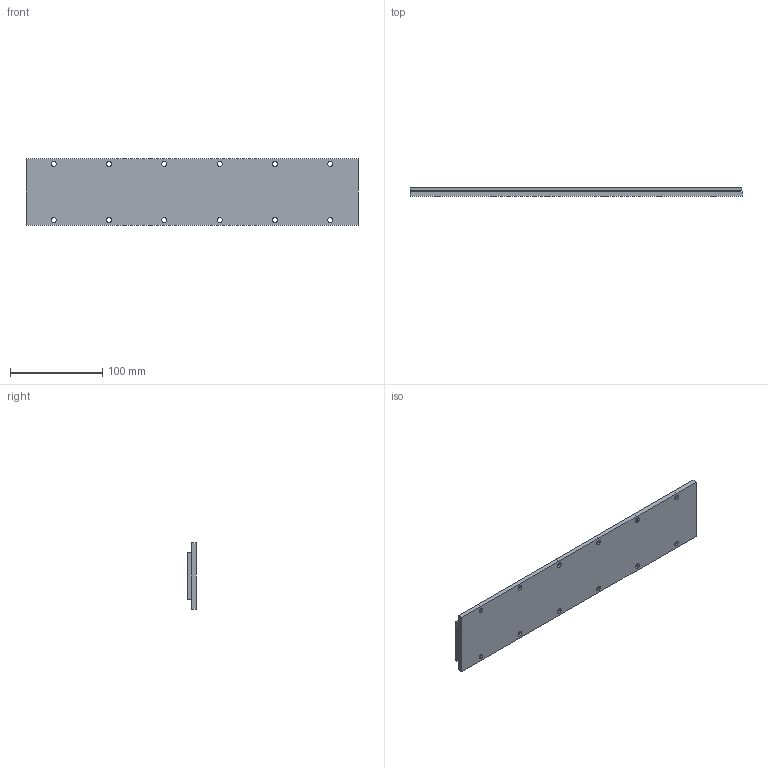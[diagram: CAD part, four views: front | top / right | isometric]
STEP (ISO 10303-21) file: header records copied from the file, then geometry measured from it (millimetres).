
FILE_DESCRIPTION (( 'STEP AP203' ), '1' );
FILE_NAME ('CM360.STEP', '2025-12-28T07:53:15', ( '' ), ( '' ), 'SwSTEP 2.0', 'SolidWorks 2024', '' );
FILE_SCHEMA (( 'CONFIG_CONTROL_DESIGN' ));
Length unit declared in the file: millimetre
Products named in the file (1): CM360
Bounding box: 360 x 9.2 x 72 mm (x, y, z)
Volume: 202296.5 mm3; surface area: 66115.1 mm2
Topology: 1 solids, 1 shells, 113 faces, 272 edges, 176 vertices
Faces by surface type: cylinder 52, plane 49, bspline 12
Entity records: 3651 total; most frequent: CARTESIAN_POINT 870, DIRECTION 556, ORIENTED_EDGE 544, EDGE_CURVE 272, AXIS2_PLACEMENT_3D 206, VERTEX_POINT 176, EDGE_LOOP 152, LINE 144
